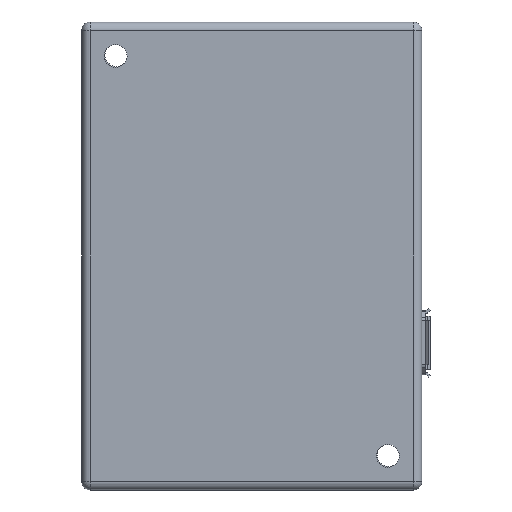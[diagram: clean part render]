
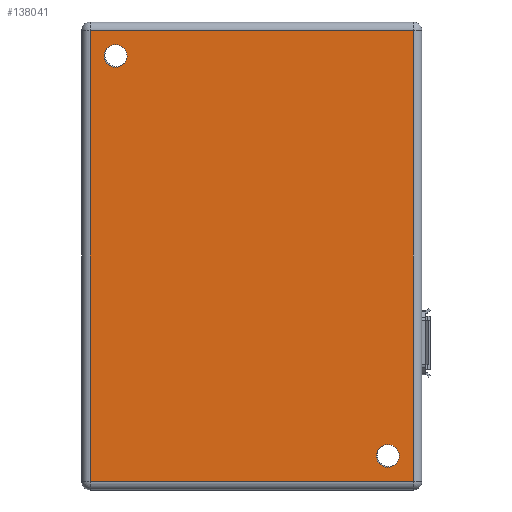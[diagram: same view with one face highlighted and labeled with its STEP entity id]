
A CAD part, front view. The second image highlights one B-rep face of the part: STEP entity #138041.
In plain terms, the highlighted planar face has unit normal (0, -1, 0).
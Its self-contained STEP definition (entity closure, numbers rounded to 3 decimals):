
#136205=DIRECTION('',(1.,0.,0.));
#136206=VECTOR('',#136205,53.);
#136207=CARTESIAN_POINT('',(-26.5,0.,-19.));
#136208=LINE('',#136207,#136206);
#136212=DIRECTION('',(0.,0.,-1.));
#136213=VECTOR('',#136212,38.);
#136214=CARTESIAN_POINT('',(-26.5,0.,19.));
#136215=LINE('',#136214,#136213);
#136219=DIRECTION('',(-1.,0.,0.));
#136220=VECTOR('',#136219,53.);
#136221=CARTESIAN_POINT('',(26.5,0.,19.));
#136222=LINE('',#136221,#136220);
#136226=DIRECTION('',(0.,0.,1.));
#136227=VECTOR('',#136226,38.);
#136228=CARTESIAN_POINT('',(26.5,0.,-19.));
#136229=LINE('',#136228,#136227);
#136233=CARTESIAN_POINT('',(23.5,0.,16.));
#136234=DIRECTION('',(0.,1.,0.));
#136235=DIRECTION('',(-1.,0.,0.));
#136236=AXIS2_PLACEMENT_3D('',#136233,#136234,#136235);
#136241=CARTESIAN_POINT('',(23.5,0.,16.));
#136242=DIRECTION('',(0.,1.,0.));
#136243=DIRECTION('',(1.,0.,0.));
#136244=AXIS2_PLACEMENT_3D('',#136241,#136242,#136243);
#136249=CARTESIAN_POINT('',(-23.5,0.,-16.));
#136250=DIRECTION('',(0.,1.,0.));
#136251=DIRECTION('',(-1.,0.,0.));
#136252=AXIS2_PLACEMENT_3D('',#136249,#136250,#136251);
#136257=CARTESIAN_POINT('',(-23.5,0.,-16.));
#136258=DIRECTION('',(0.,1.,0.));
#136259=DIRECTION('',(1.,0.,0.));
#136260=AXIS2_PLACEMENT_3D('',#136257,#136258,#136259);
#136491=CARTESIAN_POINT('',(-26.5,0.,-19.));
#136492=CARTESIAN_POINT('',(26.5,0.,-19.));
#136493=VERTEX_POINT('',#136491);
#136494=VERTEX_POINT('',#136492);
#136503=CARTESIAN_POINT('',(-26.5,0.,19.));
#136504=VERTEX_POINT('',#136503);
#136511=CARTESIAN_POINT('',(26.5,0.,19.));
#136512=VERTEX_POINT('',#136511);
#136617=CARTESIAN_POINT('',(22.15,0.,16.));
#136618=CARTESIAN_POINT('',(24.85,0.,16.));
#136619=VERTEX_POINT('',#136617);
#136620=VERTEX_POINT('',#136618);
#136621=CARTESIAN_POINT('',(-24.85,0.,-16.));
#136622=CARTESIAN_POINT('',(-22.15,0.,-16.));
#136623=VERTEX_POINT('',#136621);
#136624=VERTEX_POINT('',#136622);
#138016=CARTESIAN_POINT('',(0.,0.,0.));
#138017=DIRECTION('',(0.,1.,0.));
#138018=DIRECTION('',(1.,0.,0.));
#138019=AXIS2_PLACEMENT_3D('',#138016,#138017,#138018);
#138020=PLANE('',#138019);
#138021=ORIENTED_EDGE('',*,*,#138009,.F.);
#138022=ORIENTED_EDGE('',*,*,#136818,.F.);
#138024=ORIENTED_EDGE('',*,*,#138023,.F.);
#138026=ORIENTED_EDGE('',*,*,#138025,.F.);
#138027=EDGE_LOOP('',(#138021,#138022,#138024,#138026));
#138028=FACE_OUTER_BOUND('',#138027,.F.);
#138030=ORIENTED_EDGE('',*,*,#138029,.F.);
#138032=ORIENTED_EDGE('',*,*,#138031,.F.);
#138033=EDGE_LOOP('',(#138030,#138032));
#138034=FACE_BOUND('',#138033,.F.);
#138036=ORIENTED_EDGE('',*,*,#138035,.F.);
#138038=ORIENTED_EDGE('',*,*,#138037,.F.);
#138039=EDGE_LOOP('',(#138036,#138038));
#138040=FACE_BOUND('',#138039,.F.);
#138041=ADVANCED_FACE('',(#138028,#138034,#138040),#138020,.F.);
#136237=CIRCLE('',#136236,1.35);
#136245=CIRCLE('',#136244,1.35);
#136253=CIRCLE('',#136252,1.35);
#136261=CIRCLE('',#136260,1.35);
#136818=EDGE_CURVE('',#136504,#136493,#136215,.T.);
#138009=EDGE_CURVE('',#136493,#136494,#136208,.T.);
#138023=EDGE_CURVE('',#136512,#136504,#136222,.T.);
#138025=EDGE_CURVE('',#136494,#136512,#136229,.T.);
#138029=EDGE_CURVE('',#136619,#136620,#136237,.T.);
#138031=EDGE_CURVE('',#136620,#136619,#136245,.T.);
#138035=EDGE_CURVE('',#136623,#136624,#136253,.T.);
#138037=EDGE_CURVE('',#136624,#136623,#136261,.T.);
